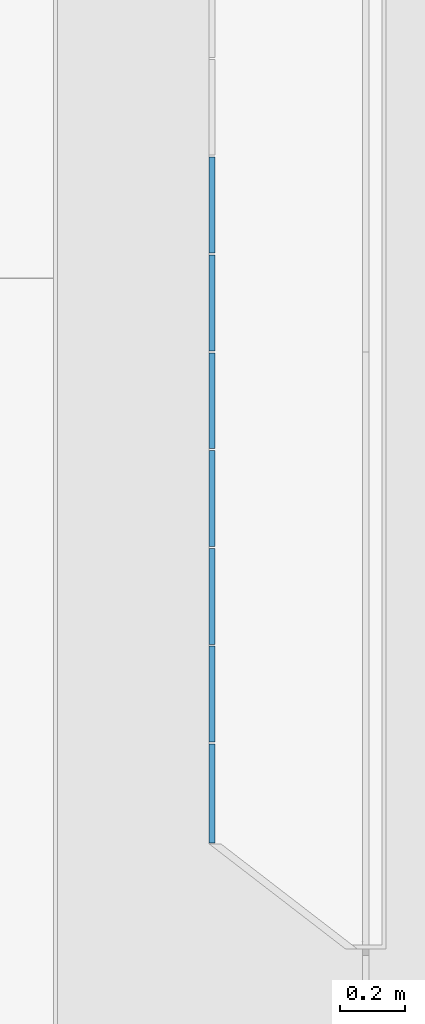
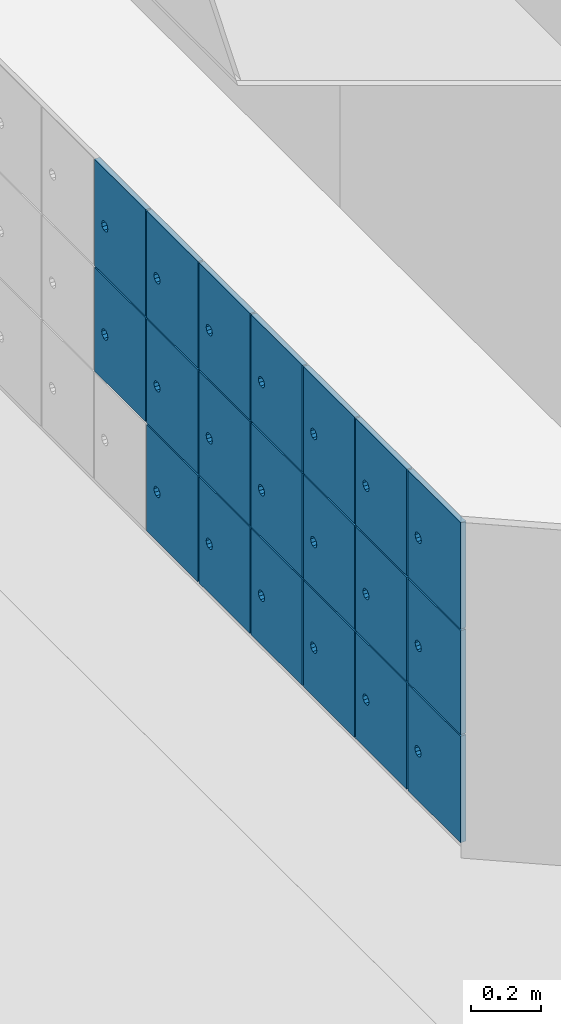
# One storey, part 141 of 347: 20 building element parts, 1 element without a shape of its own.
"""IFC2X3 building model written with IfcOpenShell, lengths in millimetres."""

from ifc_helpers import new_model, entity, si_unit, converted_unit, derived_unit, money_unit, direction, frame, origin_with_axes, place, context, subcontext, project, spatial, faceted_brep, material, type_object, element, aggregate, save


model = new_model("IFC2X3")

# Units and contexts
model_context = context("Model", 3, precision=0.01, world=origin_with_axes(), true_north=direction((0.0, 1.0)))
plan_context = context("Plan", 3, precision=0.01, world=origin_with_axes(), true_north=direction((0.0, 1.0)))
body_context = subcontext(model_context, "Body", "Model", "MODEL_VIEW")
ifc_project = project(units=[si_unit("LENGTHUNIT", "METRE", prefix="MILLI"), si_unit("AREAUNIT", "SQUARE_METRE"), si_unit("VOLUMEUNIT", "CUBIC_METRE"), converted_unit("PLANEANGLEUNIT", "DEGREE", entity("IfcPlaneAngleMeasure", 0.0174532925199), si_unit("PLANEANGLEUNIT", "RADIAN"), dimensions=[0, 0, 0, 0, 0, 0, 0]), money_unit("EUR"), converted_unit("TIMEUNIT", "Year", entity("IfcTimeMeasure", 31556926.0), si_unit("TIMEUNIT", "SECOND"), dimensions=[0, 0, 1, 0, 0, 0, 0]), si_unit("MASSUNIT", "GRAM", prefix="KILO"), si_unit("THERMODYNAMICTEMPERATUREUNIT", "DEGREE_CELSIUS"), si_unit("LUMINOUSINTENSITYUNIT", "LUMEN"), si_unit("ENERGYUNIT", "JOULE", prefix="MEGA"), derived_unit("THERMALCONDUCTANCEUNIT", [(si_unit("POWERUNIT", "WATT"), 1), (si_unit("LENGTHUNIT", "METRE"), -1), (si_unit("THERMODYNAMICTEMPERATUREUNIT", "KELVIN"), -1)]), derived_unit("SPECIFICHEATCAPACITYUNIT", [(si_unit("ENERGYUNIT", "JOULE"), 1), (si_unit("MASSUNIT", "GRAM", prefix="KILO"), -1), (si_unit("THERMODYNAMICTEMPERATUREUNIT", "KELVIN"), -1)]), derived_unit("MASSDENSITYUNIT", [(si_unit("MASSUNIT", "GRAM", prefix="KILO"), 1), (si_unit("VOLUMEUNIT", "CUBIC_METRE"), -1)])], contexts=[model_context, plan_context])

# Site, building, storey
site_placement = place(None, origin_with_axes())
site = spatial("IfcSite", under=ifc_project, at=site_placement, Name="Site", CompositionType="ELEMENT")
building_placement = place(site_placement, origin_with_axes())
building = spatial("IfcBuilding", under=site, at=building_placement, Name="Naam gebouw", CompositionType="ELEMENT")
storey_placement = place(building_placement, origin_with_axes())
storey = spatial("IfcBuildingStorey", under=building, at=storey_placement, Name="begane grond", CompositionType="ELEMENT", Elevation=0.0)

# Beam, building element parts
beam_type = type_object("IfcBeamType", Name="VI Garderobe 01 3012 x 1122", PredefinedType="BEAM")
beam_placement = place(storey_placement, frame((47531.9720234, 32105.5, 0.0), z_axis=(0.0, 0.0, 1.0), x_axis=(0.0, -1.0, 0.0)))
beam = element("IfcBeam", 1, at=beam_placement, inside=storey, type_object=beam_type, Name="28_Balk-x", ObjectType="BEAM")
ifc_material = material(Name="Hout - Lockers")
building_element_part_1_placement = place(beam_placement, origin_with_axes())
building_element_part_1 = element("IfcBuildingElementPart", 2, at=building_element_part_1_placement, material=ifc_material, Name="Hout - Lockers", context=body_context, shape_type="Brep", body=[
    faceted_brep([(2709.0, 18.0, 1175.0), (2709.0, 18.0, 802.0), (2709.0, 0.0, 802.0), (2709.0, 0.0, 1175.0), (3012.0, 18.0, 1175.0), (3012.0, 18.0, 802.0), (2787.0, 18.0, 975.0), (2783.5623059, 18.0, 985.580134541), (2774.5623059, 18.0, 992.119017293), (2763.4376941, 18.0, 992.119017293), (2754.4376941, 18.0, 985.580134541), (2751.0, 18.0, 975.0), (2754.4376941, 18.0, 964.419865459), (2763.4376941, 18.0, 957.880982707), (2774.5623059, 18.0, 957.880982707), (2783.5623059, 18.0, 964.419865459), (3012.0, 0.0, 802.0), (3012.0, 0.0, 1175.0), (2787.0, 0.0, 975.0), (2783.5623059, 0.0, 964.419865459), (2774.5623059, 0.0, 957.880982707), (2763.4376941, 0.0, 957.880982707), (2754.4376941, 0.0, 964.419865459), (2751.0, 0.0, 975.0), (2754.4376941, 0.0, 985.580134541), (2763.4376941, 0.0, 992.119017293), (2774.5623059, 0.0, 992.119017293), (2783.5623059, 0.0, 985.580134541)], [[[0, 1, 2, 3]], [[0, 4, 5, 1], [6, 7, 8, 9, 10, 11, 12, 13, 14, 15]], [[1, 5, 16, 2]], [[3, 2, 16, 17], [18, 19, 20, 21, 22, 23, 24, 25, 26, 27]], [[4, 0, 3, 17]], [[5, 4, 17, 16]], [[7, 6, 18, 27]], [[8, 7, 27, 26]], [[9, 8, 26, 25]], [[10, 9, 25, 24]], [[11, 10, 24, 23]], [[12, 11, 23, 22]], [[13, 12, 22, 21]], [[14, 13, 21, 20]], [[15, 14, 20, 19]], [[6, 15, 19, 18]]]),
])
building_element_part_2_placement = place(beam_placement, origin_with_axes())
building_element_part_2 = element("IfcBuildingElementPart", 3, at=building_element_part_2_placement, material=ifc_material, Name="Hout - Lockers", context=body_context, shape_type="Brep", body=[
    faceted_brep([(2709.0, 18.0, 796.0), (2709.0, 18.0, 432.0), (2709.0, 0.0, 432.0), (2709.0, 0.0, 796.0), (3012.0, 18.0, 796.0), (3012.0, 18.0, 432.0), (2787.0, 18.0, 596.0), (2783.5623059, 18.0, 606.580134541), (2774.5623059, 18.0, 613.119017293), (2763.4376941, 18.0, 613.119017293), (2754.4376941, 18.0, 606.580134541), (2751.0, 18.0, 596.0), (2754.4376941, 18.0, 585.419865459), (2763.4376941, 18.0, 578.880982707), (2774.5623059, 18.0, 578.880982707), (2783.5623059, 18.0, 585.419865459), (3012.0, 0.0, 432.0), (3012.0, 0.0, 796.0), (2787.0, 0.0, 596.0), (2783.5623059, 0.0, 585.419865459), (2774.5623059, 0.0, 578.880982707), (2763.4376941, 0.0, 578.880982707), (2754.4376941, 0.0, 585.419865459), (2751.0, 0.0, 596.0), (2754.4376941, 0.0, 606.580134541), (2763.4376941, 0.0, 613.119017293), (2774.5623059, 0.0, 613.119017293), (2783.5623059, 0.0, 606.580134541)], [[[0, 1, 2, 3]], [[0, 4, 5, 1], [6, 7, 8, 9, 10, 11, 12, 13, 14, 15]], [[1, 5, 16, 2]], [[3, 2, 16, 17], [18, 19, 20, 21, 22, 23, 24, 25, 26, 27]], [[4, 0, 3, 17]], [[5, 4, 17, 16]], [[7, 6, 18, 27]], [[8, 7, 27, 26]], [[9, 8, 26, 25]], [[10, 9, 25, 24]], [[11, 10, 24, 23]], [[12, 11, 23, 22]], [[13, 12, 22, 21]], [[14, 13, 21, 20]], [[15, 14, 20, 19]], [[6, 15, 19, 18]]]),
])
building_element_part_3_placement = place(beam_placement, origin_with_axes())
building_element_part_3 = element("IfcBuildingElementPart", 4, at=building_element_part_3_placement, material=ifc_material, Name="Hout - Lockers", context=body_context, shape_type="Brep", body=[
    faceted_brep([(2709.0, 18.0, 426.0), (2709.0, 18.0, 53.0), (2709.0, 0.0, 53.0), (2709.0, 0.0, 426.0), (3012.0, 18.0, 426.0), (3012.0, 18.0, 53.0), (2785.5992825, 18.0, 226.009810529), (2782.1615884, 18.0, 236.58994507), (2773.1615884, 18.0, 243.128827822), (2762.0369766, 18.0, 243.128827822), (2753.0369766, 18.0, 236.58994507), (2749.5992825, 18.0, 226.009810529), (2753.0369766, 18.0, 215.429675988), (2762.0369766, 18.0, 208.890793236), (2773.1615884, 18.0, 208.890793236), (2782.1615884, 18.0, 215.429675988), (3012.0, 0.0, 53.0), (3012.0, 0.0, 426.0), (2785.5992825, 0.0, 226.009810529), (2782.1615884, 0.0, 215.429675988), (2773.1615884, 0.0, 208.890793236), (2762.0369766, 0.0, 208.890793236), (2753.0369766, 0.0, 215.429675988), (2749.5992825, 0.0, 226.009810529), (2753.0369766, 0.0, 236.58994507), (2762.0369766, 0.0, 243.128827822), (2773.1615884, 0.0, 243.128827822), (2782.1615884, 0.0, 236.58994507)], [[[0, 1, 2, 3]], [[0, 4, 5, 1], [6, 7, 8, 9, 10, 11, 12, 13, 14, 15]], [[1, 5, 16, 2]], [[3, 2, 16, 17], [18, 19, 20, 21, 22, 23, 24, 25, 26, 27]], [[4, 0, 3, 17]], [[5, 4, 17, 16]], [[7, 6, 18, 27]], [[8, 7, 27, 26]], [[9, 8, 26, 25]], [[10, 9, 25, 24]], [[11, 10, 24, 23]], [[12, 11, 23, 22]], [[13, 12, 22, 21]], [[14, 13, 21, 20]], [[15, 14, 20, 19]], [[6, 15, 19, 18]]]),
])
building_element_part_4_placement = place(beam_placement, origin_with_axes())
building_element_part_4 = element("IfcBuildingElementPart", 5, at=building_element_part_4_placement, material=ifc_material, Name="Hout - Lockers", context=body_context, shape_type="Brep", body=[
    faceted_brep([(2109.0, 18.0, 1175.0), (2109.0, 18.0, 802.0), (2109.0, 0.0, 802.0), (2109.0, 0.0, 1175.0), (2403.0, 18.0, 1175.0), (2403.0, 18.0, 802.0), (2187.0, 18.0, 975.0), (2183.5623059, 18.0, 985.580134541), (2174.5623059, 18.0, 992.119017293), (2163.4376941, 18.0, 992.119017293), (2154.4376941, 18.0, 985.580134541), (2151.0, 18.0, 975.0), (2154.4376941, 18.0, 964.419865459), (2163.4376941, 18.0, 957.880982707), (2174.5623059, 18.0, 957.880982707), (2183.5623059, 18.0, 964.419865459), (2403.0, 0.0, 802.0), (2403.0, 0.0, 1175.0), (2187.0, 0.0, 975.0), (2183.5623059, 0.0, 964.419865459), (2174.5623059, 0.0, 957.880982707), (2163.4376941, 0.0, 957.880982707), (2154.4376941, 0.0, 964.419865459), (2151.0, 0.0, 975.0), (2154.4376941, 0.0, 985.580134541), (2163.4376941, 0.0, 992.119017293), (2174.5623059, 0.0, 992.119017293), (2183.5623059, 0.0, 985.580134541)], [[[0, 1, 2, 3]], [[0, 4, 5, 1], [6, 7, 8, 9, 10, 11, 12, 13, 14, 15]], [[1, 5, 16, 2]], [[3, 2, 16, 17], [18, 19, 20, 21, 22, 23, 24, 25, 26, 27]], [[4, 0, 3, 17]], [[5, 4, 17, 16]], [[7, 6, 18, 27]], [[8, 7, 27, 26]], [[9, 8, 26, 25]], [[10, 9, 25, 24]], [[11, 10, 24, 23]], [[12, 11, 23, 22]], [[13, 12, 22, 21]], [[14, 13, 21, 20]], [[15, 14, 20, 19]], [[6, 15, 19, 18]]]),
])
building_element_part_5_placement = place(beam_placement, origin_with_axes())
building_element_part_5 = element("IfcBuildingElementPart", 6, at=building_element_part_5_placement, material=ifc_material, Name="Hout - Lockers", context=body_context, shape_type="Brep", body=[
    faceted_brep([(2109.0, 18.0, 796.0), (2109.0, 18.0, 432.0), (2109.0, 0.0, 432.0), (2109.0, 0.0, 796.0), (2403.0, 18.0, 796.0), (2403.0, 18.0, 432.0), (2187.0, 18.0, 596.0), (2183.5623059, 18.0, 606.580134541), (2174.5623059, 18.0, 613.119017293), (2163.4376941, 18.0, 613.119017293), (2154.4376941, 18.0, 606.580134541), (2151.0, 18.0, 596.0), (2154.4376941, 18.0, 585.419865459), (2163.4376941, 18.0, 578.880982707), (2174.5623059, 18.0, 578.880982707), (2183.5623059, 18.0, 585.419865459), (2403.0, 0.0, 432.0), (2403.0, 0.0, 796.0), (2187.0, 0.0, 596.0), (2183.5623059, 0.0, 585.419865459), (2174.5623059, 0.0, 578.880982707), (2163.4376941, 0.0, 578.880982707), (2154.4376941, 0.0, 585.419865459), (2151.0, 0.0, 596.0), (2154.4376941, 0.0, 606.580134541), (2163.4376941, 0.0, 613.119017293), (2174.5623059, 0.0, 613.119017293), (2183.5623059, 0.0, 606.580134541)], [[[0, 1, 2, 3]], [[0, 4, 5, 1], [6, 7, 8, 9, 10, 11, 12, 13, 14, 15]], [[1, 5, 16, 2]], [[3, 2, 16, 17], [18, 19, 20, 21, 22, 23, 24, 25, 26, 27]], [[4, 0, 3, 17]], [[5, 4, 17, 16]], [[7, 6, 18, 27]], [[8, 7, 27, 26]], [[9, 8, 26, 25]], [[10, 9, 25, 24]], [[11, 10, 24, 23]], [[12, 11, 23, 22]], [[13, 12, 22, 21]], [[14, 13, 21, 20]], [[15, 14, 20, 19]], [[6, 15, 19, 18]]]),
])
building_element_part_6_placement = place(beam_placement, origin_with_axes())
building_element_part_6 = element("IfcBuildingElementPart", 7, at=building_element_part_6_placement, material=ifc_material, Name="Hout - Lockers", context=body_context, shape_type="Brep", body=[
    faceted_brep([(2109.0, 18.0, 426.0), (2109.0, 18.0, 53.0), (2109.0, 0.0, 53.0), (2109.0, 0.0, 426.0), (2403.0, 18.0, 426.0), (2403.0, 18.0, 53.0), (2187.0, 18.0, 226.0), (2183.5623059, 18.0, 236.580134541), (2174.5623059, 18.0, 243.119017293), (2163.4376941, 18.0, 243.119017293), (2154.4376941, 18.0, 236.580134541), (2151.0, 18.0, 226.0), (2154.4376941, 18.0, 215.419865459), (2163.4376941, 18.0, 208.880982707), (2174.5623059, 18.0, 208.880982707), (2183.5623059, 18.0, 215.419865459), (2403.0, 0.0, 53.0), (2403.0, 0.0, 426.0), (2187.0, 0.0, 226.0), (2183.5623059, 0.0, 215.419865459), (2174.5623059, 0.0, 208.880982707), (2163.4376941, 0.0, 208.880982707), (2154.4376941, 0.0, 215.419865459), (2151.0, 0.0, 226.0), (2154.4376941, 0.0, 236.580134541), (2163.4376941, 0.0, 243.119017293), (2174.5623059, 0.0, 243.119017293), (2183.5623059, 0.0, 236.580134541)], [[[0, 1, 2, 3]], [[0, 4, 5, 1], [6, 7, 8, 9, 10, 11, 12, 13, 14, 15]], [[1, 5, 16, 2]], [[3, 2, 16, 17], [18, 19, 20, 21, 22, 23, 24, 25, 26, 27]], [[4, 0, 3, 17]], [[5, 4, 17, 16]], [[7, 6, 18, 27]], [[8, 7, 27, 26]], [[9, 8, 26, 25]], [[10, 9, 25, 24]], [[11, 10, 24, 23]], [[12, 11, 23, 22]], [[13, 12, 22, 21]], [[14, 13, 21, 20]], [[15, 14, 20, 19]], [[6, 15, 19, 18]]]),
])
building_element_part_7_placement = place(beam_placement, origin_with_axes())
building_element_part_7 = element("IfcBuildingElementPart", 8, at=building_element_part_7_placement, material=ifc_material, Name="Hout - Lockers", context=body_context, shape_type="Brep", body=[
    faceted_brep([(1209.0, 18.0, 1175.0), (1209.0, 18.0, 802.0), (1209.0, 0.0, 802.0), (1209.0, 0.0, 1175.0), (1503.0, 18.0, 1175.0), (1503.0, 18.0, 802.0), (1287.0, 18.0, 975.0), (1283.5623059, 18.0, 985.580134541), (1274.5623059, 18.0, 992.119017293), (1263.4376941, 18.0, 992.119017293), (1254.4376941, 18.0, 985.580134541), (1251.0, 18.0, 975.0), (1254.4376941, 18.0, 964.419865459), (1263.4376941, 18.0, 957.880982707), (1274.5623059, 18.0, 957.880982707), (1283.5623059, 18.0, 964.419865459), (1503.0, 0.0, 802.0), (1503.0, 0.0, 1175.0), (1287.0, 0.0, 975.0), (1283.5623059, 0.0, 964.419865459), (1274.5623059, 0.0, 957.880982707), (1263.4376941, 0.0, 957.880982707), (1254.4376941, 0.0, 964.419865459), (1251.0, 0.0, 975.0), (1254.4376941, 0.0, 985.580134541), (1263.4376941, 0.0, 992.119017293), (1274.5623059, 0.0, 992.119017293), (1283.5623059, 0.0, 985.580134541)], [[[0, 1, 2, 3]], [[0, 4, 5, 1], [6, 7, 8, 9, 10, 11, 12, 13, 14, 15]], [[1, 5, 16, 2]], [[3, 2, 16, 17], [18, 19, 20, 21, 22, 23, 24, 25, 26, 27]], [[4, 0, 3, 17]], [[5, 4, 17, 16]], [[7, 6, 18, 27]], [[8, 7, 27, 26]], [[9, 8, 26, 25]], [[10, 9, 25, 24]], [[11, 10, 24, 23]], [[12, 11, 23, 22]], [[13, 12, 22, 21]], [[14, 13, 21, 20]], [[15, 14, 20, 19]], [[6, 15, 19, 18]]]),
])
building_element_part_8_placement = place(beam_placement, origin_with_axes())
building_element_part_8 = element("IfcBuildingElementPart", 9, at=building_element_part_8_placement, material=ifc_material, Name="Hout - Lockers", context=body_context, shape_type="Brep", body=[
    faceted_brep([(1209.0, 18.0, 796.0), (1209.0, 18.0, 432.0), (1209.0, 0.0, 432.0), (1209.0, 0.0, 796.0), (1503.0, 18.0, 796.0), (1503.0, 18.0, 432.0), (1287.0, 18.0, 596.0), (1283.5623059, 18.0, 606.580134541), (1274.5623059, 18.0, 613.119017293), (1263.4376941, 18.0, 613.119017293), (1254.4376941, 18.0, 606.580134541), (1251.0, 18.0, 596.0), (1254.4376941, 18.0, 585.419865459), (1263.4376941, 18.0, 578.880982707), (1274.5623059, 18.0, 578.880982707), (1283.5623059, 18.0, 585.419865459), (1503.0, 0.0, 432.0), (1503.0, 0.0, 796.0), (1287.0, 0.0, 596.0), (1283.5623059, 0.0, 585.419865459), (1274.5623059, 0.0, 578.880982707), (1263.4376941, 0.0, 578.880982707), (1254.4376941, 0.0, 585.419865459), (1251.0, 0.0, 596.0), (1254.4376941, 0.0, 606.580134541), (1263.4376941, 0.0, 613.119017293), (1274.5623059, 0.0, 613.119017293), (1283.5623059, 0.0, 606.580134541)], [[[0, 1, 2, 3]], [[0, 4, 5, 1], [6, 7, 8, 9, 10, 11, 12, 13, 14, 15]], [[1, 5, 16, 2]], [[3, 2, 16, 17], [18, 19, 20, 21, 22, 23, 24, 25, 26, 27]], [[4, 0, 3, 17]], [[5, 4, 17, 16]], [[7, 6, 18, 27]], [[8, 7, 27, 26]], [[9, 8, 26, 25]], [[10, 9, 25, 24]], [[11, 10, 24, 23]], [[12, 11, 23, 22]], [[13, 12, 22, 21]], [[14, 13, 21, 20]], [[15, 14, 20, 19]], [[6, 15, 19, 18]]]),
])
building_element_part_9_placement = place(beam_placement, origin_with_axes())
building_element_part_9 = element("IfcBuildingElementPart", 10, at=building_element_part_9_placement, material=ifc_material, Name="Hout - Lockers", context=body_context, shape_type="Brep", body=[
    faceted_brep([(1209.0, 18.0, 426.0), (1209.0, 18.0, 53.0), (1209.0, 0.0, 53.0), (1209.0, 0.0, 426.0), (1503.0, 18.0, 426.0), (1503.0, 18.0, 53.0), (1287.0, 18.0, 226.0), (1283.5623059, 18.0, 236.580134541), (1274.5623059, 18.0, 243.119017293), (1263.4376941, 18.0, 243.119017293), (1254.4376941, 18.0, 236.580134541), (1251.0, 18.0, 226.0), (1254.4376941, 18.0, 215.419865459), (1263.4376941, 18.0, 208.880982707), (1274.5623059, 18.0, 208.880982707), (1283.5623059, 18.0, 215.419865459), (1503.0, 0.0, 53.0), (1503.0, 0.0, 426.0), (1287.0, 0.0, 226.0), (1283.5623059, 0.0, 215.419865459), (1274.5623059, 0.0, 208.880982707), (1263.4376941, 0.0, 208.880982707), (1254.4376941, 0.0, 215.419865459), (1251.0, 0.0, 226.0), (1254.4376941, 0.0, 236.580134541), (1263.4376941, 0.0, 243.119017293), (1274.5623059, 0.0, 243.119017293), (1283.5623059, 0.0, 236.580134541)], [[[0, 1, 2, 3]], [[0, 4, 5, 1], [6, 7, 8, 9, 10, 11, 12, 13, 14, 15]], [[1, 5, 16, 2]], [[3, 2, 16, 17], [18, 19, 20, 21, 22, 23, 24, 25, 26, 27]], [[4, 0, 3, 17]], [[5, 4, 17, 16]], [[7, 6, 18, 27]], [[8, 7, 27, 26]], [[9, 8, 26, 25]], [[10, 9, 25, 24]], [[11, 10, 24, 23]], [[12, 11, 23, 22]], [[13, 12, 22, 21]], [[14, 13, 21, 20]], [[15, 14, 20, 19]], [[6, 15, 19, 18]]]),
])
building_element_part_10_placement = place(beam_placement, origin_with_axes())
building_element_part_10 = element("IfcBuildingElementPart", 11, at=building_element_part_10_placement, material=ifc_material, Name="Hout - Lockers", context=body_context, shape_type="Brep", body=[
    faceted_brep([(909.0, 18.0, 1175.0), (909.0, 18.0, 802.0), (909.0, 0.0, 802.0), (909.0, 0.0, 1175.0), (1203.0, 18.0, 1175.0), (1203.0, 18.0, 802.0), (987.0, 18.0, 975.0), (983.562305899, 18.0, 985.580134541), (974.562305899, 18.0, 992.119017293), (963.437694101, 18.0, 992.119017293), (954.437694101, 18.0, 985.580134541), (951.0, 18.0, 975.0), (954.437694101, 18.0, 964.419865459), (963.437694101, 18.0, 957.880982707), (974.562305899, 18.0, 957.880982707), (983.562305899, 18.0, 964.419865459), (1203.0, 0.0, 802.0), (1203.0, 0.0, 1175.0), (987.0, 0.0, 975.0), (983.562305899, 0.0, 964.419865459), (974.562305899, 0.0, 957.880982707), (963.437694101, 0.0, 957.880982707), (954.437694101, 0.0, 964.419865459), (951.0, 0.0, 975.0), (954.437694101, 0.0, 985.580134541), (963.437694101, 0.0, 992.119017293), (974.562305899, 0.0, 992.119017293), (983.562305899, 0.0, 985.580134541)], [[[0, 1, 2, 3]], [[0, 4, 5, 1], [6, 7, 8, 9, 10, 11, 12, 13, 14, 15]], [[1, 5, 16, 2]], [[3, 2, 16, 17], [18, 19, 20, 21, 22, 23, 24, 25, 26, 27]], [[4, 0, 3, 17]], [[5, 4, 17, 16]], [[7, 6, 18, 27]], [[8, 7, 27, 26]], [[9, 8, 26, 25]], [[10, 9, 25, 24]], [[11, 10, 24, 23]], [[12, 11, 23, 22]], [[13, 12, 22, 21]], [[14, 13, 21, 20]], [[15, 14, 20, 19]], [[6, 15, 19, 18]]]),
])
building_element_part_11_placement = place(beam_placement, origin_with_axes())
building_element_part_11 = element("IfcBuildingElementPart", 12, at=building_element_part_11_placement, material=ifc_material, Name="Hout - Lockers", context=body_context, shape_type="Brep", body=[
    faceted_brep([(909.0, 18.0, 796.0), (909.0, 18.0, 432.0), (909.0, 0.0, 432.0), (909.0, 0.0, 796.0), (1203.0, 18.0, 796.0), (1203.0, 18.0, 432.0), (987.0, 18.0, 596.0), (983.562305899, 18.0, 606.580134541), (974.562305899, 18.0, 613.119017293), (963.437694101, 18.0, 613.119017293), (954.437694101, 18.0, 606.580134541), (951.0, 18.0, 596.0), (954.437694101, 18.0, 585.419865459), (963.437694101, 18.0, 578.880982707), (974.562305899, 18.0, 578.880982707), (983.562305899, 18.0, 585.419865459), (1203.0, 0.0, 432.0), (1203.0, 0.0, 796.0), (987.0, 0.0, 596.0), (983.562305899, 0.0, 585.419865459), (974.562305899, 0.0, 578.880982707), (963.437694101, 0.0, 578.880982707), (954.437694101, 0.0, 585.419865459), (951.0, 0.0, 596.0), (954.437694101, 0.0, 606.580134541), (963.437694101, 0.0, 613.119017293), (974.562305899, 0.0, 613.119017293), (983.562305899, 0.0, 606.580134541)], [[[0, 1, 2, 3]], [[0, 4, 5, 1], [6, 7, 8, 9, 10, 11, 12, 13, 14, 15]], [[1, 5, 16, 2]], [[3, 2, 16, 17], [18, 19, 20, 21, 22, 23, 24, 25, 26, 27]], [[4, 0, 3, 17]], [[5, 4, 17, 16]], [[7, 6, 18, 27]], [[8, 7, 27, 26]], [[9, 8, 26, 25]], [[10, 9, 25, 24]], [[11, 10, 24, 23]], [[12, 11, 23, 22]], [[13, 12, 22, 21]], [[14, 13, 21, 20]], [[15, 14, 20, 19]], [[6, 15, 19, 18]]]),
])
building_element_part_12_placement = place(beam_placement, origin_with_axes())
building_element_part_12 = element("IfcBuildingElementPart", 13, at=building_element_part_12_placement, material=ifc_material, Name="Hout - Lockers", context=body_context, shape_type="Brep", body=[
    faceted_brep([(1809.0, 18.0, 1175.0), (1809.0, 18.0, 802.0), (1809.0, 0.0, 802.0), (1809.0, 0.0, 1175.0), (2103.0, 18.0, 1175.0), (2103.0, 18.0, 802.0), (1887.0, 18.0, 975.0), (1883.5623059, 18.0, 985.580134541), (1874.5623059, 18.0, 992.119017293), (1863.4376941, 18.0, 992.119017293), (1854.4376941, 18.0, 985.580134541), (1851.0, 18.0, 975.0), (1854.4376941, 18.0, 964.419865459), (1863.4376941, 18.0, 957.880982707), (1874.5623059, 18.0, 957.880982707), (1883.5623059, 18.0, 964.419865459), (2103.0, 0.0, 802.0), (2103.0, 0.0, 1175.0), (1887.0, 0.0, 975.0), (1883.5623059, 0.0, 964.419865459), (1874.5623059, 0.0, 957.880982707), (1863.4376941, 0.0, 957.880982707), (1854.4376941, 0.0, 964.419865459), (1851.0, 0.0, 975.0), (1854.4376941, 0.0, 985.580134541), (1863.4376941, 0.0, 992.119017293), (1874.5623059, 0.0, 992.119017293), (1883.5623059, 0.0, 985.580134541)], [[[0, 1, 2, 3]], [[0, 4, 5, 1], [6, 7, 8, 9, 10, 11, 12, 13, 14, 15]], [[1, 5, 16, 2]], [[3, 2, 16, 17], [18, 19, 20, 21, 22, 23, 24, 25, 26, 27]], [[4, 0, 3, 17]], [[5, 4, 17, 16]], [[7, 6, 18, 27]], [[8, 7, 27, 26]], [[9, 8, 26, 25]], [[10, 9, 25, 24]], [[11, 10, 24, 23]], [[12, 11, 23, 22]], [[13, 12, 22, 21]], [[14, 13, 21, 20]], [[15, 14, 20, 19]], [[6, 15, 19, 18]]]),
])
building_element_part_13_placement = place(beam_placement, origin_with_axes())
building_element_part_13 = element("IfcBuildingElementPart", 14, at=building_element_part_13_placement, material=ifc_material, Name="Hout - Lockers", context=body_context, shape_type="Brep", body=[
    faceted_brep([(1809.0, 18.0, 796.0), (1809.0, 18.0, 432.0), (1809.0, 0.0, 432.0), (1809.0, 0.0, 796.0), (2103.0, 18.0, 796.0), (2103.0, 18.0, 432.0), (1887.0, 18.0, 596.0), (1883.5623059, 18.0, 606.580134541), (1874.5623059, 18.0, 613.119017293), (1863.4376941, 18.0, 613.119017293), (1854.4376941, 18.0, 606.580134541), (1851.0, 18.0, 596.0), (1854.4376941, 18.0, 585.419865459), (1863.4376941, 18.0, 578.880982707), (1874.5623059, 18.0, 578.880982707), (1883.5623059, 18.0, 585.419865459), (2103.0, 0.0, 432.0), (2103.0, 0.0, 796.0), (1887.0, 0.0, 596.0), (1883.5623059, 0.0, 585.419865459), (1874.5623059, 0.0, 578.880982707), (1863.4376941, 0.0, 578.880982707), (1854.4376941, 0.0, 585.419865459), (1851.0, 0.0, 596.0), (1854.4376941, 0.0, 606.580134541), (1863.4376941, 0.0, 613.119017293), (1874.5623059, 0.0, 613.119017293), (1883.5623059, 0.0, 606.580134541)], [[[0, 1, 2, 3]], [[0, 4, 5, 1], [6, 7, 8, 9, 10, 11, 12, 13, 14, 15]], [[1, 5, 16, 2]], [[3, 2, 16, 17], [18, 19, 20, 21, 22, 23, 24, 25, 26, 27]], [[4, 0, 3, 17]], [[5, 4, 17, 16]], [[7, 6, 18, 27]], [[8, 7, 27, 26]], [[9, 8, 26, 25]], [[10, 9, 25, 24]], [[11, 10, 24, 23]], [[12, 11, 23, 22]], [[13, 12, 22, 21]], [[14, 13, 21, 20]], [[15, 14, 20, 19]], [[6, 15, 19, 18]]]),
])
building_element_part_14_placement = place(beam_placement, origin_with_axes())
building_element_part_14 = element("IfcBuildingElementPart", 15, at=building_element_part_14_placement, material=ifc_material, Name="Hout - Lockers", context=body_context, shape_type="Brep", body=[
    faceted_brep([(1809.0, 18.0, 426.0), (1809.0, 18.0, 53.0), (1809.0, 0.0, 53.0), (1809.0, 0.0, 426.0), (2103.0, 18.0, 426.0), (2103.0, 18.0, 53.0), (1887.0, 18.0, 226.0), (1883.5623059, 18.0, 236.580134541), (1874.5623059, 18.0, 243.119017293), (1863.4376941, 18.0, 243.119017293), (1854.4376941, 18.0, 236.580134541), (1851.0, 18.0, 226.0), (1854.4376941, 18.0, 215.419865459), (1863.4376941, 18.0, 208.880982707), (1874.5623059, 18.0, 208.880982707), (1883.5623059, 18.0, 215.419865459), (2103.0, 0.0, 53.0), (2103.0, 0.0, 426.0), (1887.0, 0.0, 226.0), (1883.5623059, 0.0, 215.419865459), (1874.5623059, 0.0, 208.880982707), (1863.4376941, 0.0, 208.880982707), (1854.4376941, 0.0, 215.419865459), (1851.0, 0.0, 226.0), (1854.4376941, 0.0, 236.580134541), (1863.4376941, 0.0, 243.119017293), (1874.5623059, 0.0, 243.119017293), (1883.5623059, 0.0, 236.580134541)], [[[0, 1, 2, 3]], [[0, 4, 5, 1], [6, 7, 8, 9, 10, 11, 12, 13, 14, 15]], [[1, 5, 16, 2]], [[3, 2, 16, 17], [18, 19, 20, 21, 22, 23, 24, 25, 26, 27]], [[4, 0, 3, 17]], [[5, 4, 17, 16]], [[7, 6, 18, 27]], [[8, 7, 27, 26]], [[9, 8, 26, 25]], [[10, 9, 25, 24]], [[11, 10, 24, 23]], [[12, 11, 23, 22]], [[13, 12, 22, 21]], [[14, 13, 21, 20]], [[15, 14, 20, 19]], [[6, 15, 19, 18]]]),
])
building_element_part_15_placement = place(beam_placement, origin_with_axes())
building_element_part_15 = element("IfcBuildingElementPart", 16, at=building_element_part_15_placement, material=ifc_material, Name="Hout - Lockers", context=body_context, shape_type="Brep", body=[
    faceted_brep([(1509.0, 18.0, 1175.0), (1509.0, 18.0, 802.0), (1509.0, 0.0, 802.0), (1509.0, 0.0, 1175.0), (1803.0, 18.0, 1175.0), (1803.0, 18.0, 802.0), (1587.0, 18.0, 975.0), (1583.5623059, 18.0, 985.580134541), (1574.5623059, 18.0, 992.119017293), (1563.4376941, 18.0, 992.119017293), (1554.4376941, 18.0, 985.580134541), (1551.0, 18.0, 975.0), (1554.4376941, 18.0, 964.419865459), (1563.4376941, 18.0, 957.880982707), (1574.5623059, 18.0, 957.880982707), (1583.5623059, 18.0, 964.419865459), (1803.0, 0.0, 802.0), (1803.0, 0.0, 1175.0), (1587.0, 0.0, 975.0), (1583.5623059, 0.0, 964.419865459), (1574.5623059, 0.0, 957.880982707), (1563.4376941, 0.0, 957.880982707), (1554.4376941, 0.0, 964.419865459), (1551.0, 0.0, 975.0), (1554.4376941, 0.0, 985.580134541), (1563.4376941, 0.0, 992.119017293), (1574.5623059, 0.0, 992.119017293), (1583.5623059, 0.0, 985.580134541)], [[[0, 1, 2, 3]], [[0, 4, 5, 1], [6, 7, 8, 9, 10, 11, 12, 13, 14, 15]], [[1, 5, 16, 2]], [[3, 2, 16, 17], [18, 19, 20, 21, 22, 23, 24, 25, 26, 27]], [[4, 0, 3, 17]], [[5, 4, 17, 16]], [[7, 6, 18, 27]], [[8, 7, 27, 26]], [[9, 8, 26, 25]], [[10, 9, 25, 24]], [[11, 10, 24, 23]], [[12, 11, 23, 22]], [[13, 12, 22, 21]], [[14, 13, 21, 20]], [[15, 14, 20, 19]], [[6, 15, 19, 18]]]),
])
building_element_part_16_placement = place(beam_placement, origin_with_axes())
building_element_part_16 = element("IfcBuildingElementPart", 17, at=building_element_part_16_placement, material=ifc_material, Name="Hout - Lockers", context=body_context, shape_type="Brep", body=[
    faceted_brep([(1509.0, 18.0, 796.0), (1509.0, 18.0, 432.0), (1509.0, 0.0, 432.0), (1509.0, 0.0, 796.0), (1803.0, 18.0, 796.0), (1803.0, 18.0, 432.0), (1587.0, 18.0, 596.0), (1583.5623059, 18.0, 606.580134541), (1574.5623059, 18.0, 613.119017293), (1563.4376941, 18.0, 613.119017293), (1554.4376941, 18.0, 606.580134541), (1551.0, 18.0, 596.0), (1554.4376941, 18.0, 585.419865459), (1563.4376941, 18.0, 578.880982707), (1574.5623059, 18.0, 578.880982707), (1583.5623059, 18.0, 585.419865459), (1803.0, 0.0, 432.0), (1803.0, 0.0, 796.0), (1587.0, 0.0, 596.0), (1583.5623059, 0.0, 585.419865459), (1574.5623059, 0.0, 578.880982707), (1563.4376941, 0.0, 578.880982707), (1554.4376941, 0.0, 585.419865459), (1551.0, 0.0, 596.0), (1554.4376941, 0.0, 606.580134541), (1563.4376941, 0.0, 613.119017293), (1574.5623059, 0.0, 613.119017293), (1583.5623059, 0.0, 606.580134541)], [[[0, 1, 2, 3]], [[0, 4, 5, 1], [6, 7, 8, 9, 10, 11, 12, 13, 14, 15]], [[1, 5, 16, 2]], [[3, 2, 16, 17], [18, 19, 20, 21, 22, 23, 24, 25, 26, 27]], [[4, 0, 3, 17]], [[5, 4, 17, 16]], [[7, 6, 18, 27]], [[8, 7, 27, 26]], [[9, 8, 26, 25]], [[10, 9, 25, 24]], [[11, 10, 24, 23]], [[12, 11, 23, 22]], [[13, 12, 22, 21]], [[14, 13, 21, 20]], [[15, 14, 20, 19]], [[6, 15, 19, 18]]]),
])
building_element_part_17_placement = place(beam_placement, origin_with_axes())
building_element_part_17 = element("IfcBuildingElementPart", 18, at=building_element_part_17_placement, material=ifc_material, Name="Hout - Lockers", context=body_context, shape_type="Brep", body=[
    faceted_brep([(1509.0, 18.0, 426.0), (1509.0, 18.0, 53.0), (1509.0, 0.0, 53.0), (1509.0, 0.0, 426.0), (1803.0, 18.0, 426.0), (1803.0, 18.0, 53.0), (1587.0, 18.0, 226.0), (1583.5623059, 18.0, 236.580134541), (1574.5623059, 18.0, 243.119017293), (1563.4376941, 18.0, 243.119017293), (1554.4376941, 18.0, 236.580134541), (1551.0, 18.0, 226.0), (1554.4376941, 18.0, 215.419865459), (1563.4376941, 18.0, 208.880982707), (1574.5623059, 18.0, 208.880982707), (1583.5623059, 18.0, 215.419865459), (1803.0, 0.0, 53.0), (1803.0, 0.0, 426.0), (1587.0, 0.0, 226.0), (1583.5623059, 0.0, 215.419865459), (1574.5623059, 0.0, 208.880982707), (1563.4376941, 0.0, 208.880982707), (1554.4376941, 0.0, 215.419865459), (1551.0, 0.0, 226.0), (1554.4376941, 0.0, 236.580134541), (1563.4376941, 0.0, 243.119017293), (1574.5623059, 0.0, 243.119017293), (1583.5623059, 0.0, 236.580134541)], [[[0, 1, 2, 3]], [[0, 4, 5, 1], [6, 7, 8, 9, 10, 11, 12, 13, 14, 15]], [[1, 5, 16, 2]], [[3, 2, 16, 17], [18, 19, 20, 21, 22, 23, 24, 25, 26, 27]], [[4, 0, 3, 17]], [[5, 4, 17, 16]], [[7, 6, 18, 27]], [[8, 7, 27, 26]], [[9, 8, 26, 25]], [[10, 9, 25, 24]], [[11, 10, 24, 23]], [[12, 11, 23, 22]], [[13, 12, 22, 21]], [[14, 13, 21, 20]], [[15, 14, 20, 19]], [[6, 15, 19, 18]]]),
])
building_element_part_18_placement = place(beam_placement, origin_with_axes())
building_element_part_18 = element("IfcBuildingElementPart", 19, at=building_element_part_18_placement, material=ifc_material, Name="Hout - Lockers", context=body_context, shape_type="Brep", body=[
    faceted_brep([(2409.0, 18.0, 1175.0), (2409.0, 18.0, 802.0), (2409.0, 0.0, 802.0), (2409.0, 0.0, 1175.0), (2703.0, 18.0, 1175.0), (2703.0, 18.0, 802.0), (2487.0, 18.0, 975.0), (2483.5623059, 18.0, 985.580134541), (2474.5623059, 18.0, 992.119017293), (2463.4376941, 18.0, 992.119017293), (2454.4376941, 18.0, 985.580134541), (2451.0, 18.0, 975.0), (2454.4376941, 18.0, 964.419865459), (2463.4376941, 18.0, 957.880982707), (2474.5623059, 18.0, 957.880982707), (2483.5623059, 18.0, 964.419865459), (2703.0, 0.0, 802.0), (2703.0, 0.0, 1175.0), (2487.0, 0.0, 975.0), (2483.5623059, 0.0, 964.419865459), (2474.5623059, 0.0, 957.880982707), (2463.4376941, 0.0, 957.880982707), (2454.4376941, 0.0, 964.419865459), (2451.0, 0.0, 975.0), (2454.4376941, 0.0, 985.580134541), (2463.4376941, 0.0, 992.119017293), (2474.5623059, 0.0, 992.119017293), (2483.5623059, 0.0, 985.580134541)], [[[0, 1, 2, 3]], [[0, 4, 5, 1], [6, 7, 8, 9, 10, 11, 12, 13, 14, 15]], [[1, 5, 16, 2]], [[3, 2, 16, 17], [18, 19, 20, 21, 22, 23, 24, 25, 26, 27]], [[4, 0, 3, 17]], [[5, 4, 17, 16]], [[7, 6, 18, 27]], [[8, 7, 27, 26]], [[9, 8, 26, 25]], [[10, 9, 25, 24]], [[11, 10, 24, 23]], [[12, 11, 23, 22]], [[13, 12, 22, 21]], [[14, 13, 21, 20]], [[15, 14, 20, 19]], [[6, 15, 19, 18]]]),
])
building_element_part_19_placement = place(beam_placement, origin_with_axes())
building_element_part_19 = element("IfcBuildingElementPart", 20, at=building_element_part_19_placement, material=ifc_material, Name="Hout - Lockers", context=body_context, shape_type="Brep", body=[
    faceted_brep([(2409.0, 18.0, 796.0), (2409.0, 18.0, 432.0), (2409.0, 0.0, 432.0), (2409.0, 0.0, 796.0), (2703.0, 18.0, 796.0), (2703.0, 18.0, 432.0), (2487.0, 18.0, 596.0), (2483.5623059, 18.0, 606.580134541), (2474.5623059, 18.0, 613.119017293), (2463.4376941, 18.0, 613.119017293), (2454.4376941, 18.0, 606.580134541), (2451.0, 18.0, 596.0), (2454.4376941, 18.0, 585.419865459), (2463.4376941, 18.0, 578.880982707), (2474.5623059, 18.0, 578.880982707), (2483.5623059, 18.0, 585.419865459), (2703.0, 0.0, 432.0), (2703.0, 0.0, 796.0), (2487.0, 0.0, 596.0), (2483.5623059, 0.0, 585.419865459), (2474.5623059, 0.0, 578.880982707), (2463.4376941, 0.0, 578.880982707), (2454.4376941, 0.0, 585.419865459), (2451.0, 0.0, 596.0), (2454.4376941, 0.0, 606.580134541), (2463.4376941, 0.0, 613.119017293), (2474.5623059, 0.0, 613.119017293), (2483.5623059, 0.0, 606.580134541)], [[[0, 1, 2, 3]], [[0, 4, 5, 1], [6, 7, 8, 9, 10, 11, 12, 13, 14, 15]], [[1, 5, 16, 2]], [[3, 2, 16, 17], [18, 19, 20, 21, 22, 23, 24, 25, 26, 27]], [[4, 0, 3, 17]], [[5, 4, 17, 16]], [[7, 6, 18, 27]], [[8, 7, 27, 26]], [[9, 8, 26, 25]], [[10, 9, 25, 24]], [[11, 10, 24, 23]], [[12, 11, 23, 22]], [[13, 12, 22, 21]], [[14, 13, 21, 20]], [[15, 14, 20, 19]], [[6, 15, 19, 18]]]),
])
building_element_part_20_placement = place(beam_placement, origin_with_axes())
building_element_part_20 = element("IfcBuildingElementPart", 21, at=building_element_part_20_placement, material=ifc_material, Name="Hout - Lockers", context=body_context, shape_type="Brep", body=[
    faceted_brep([(2409.0, 18.0, 426.0), (2409.0, 18.0, 53.0), (2409.0, 0.0, 53.0), (2409.0, 0.0, 426.0), (2703.0, 18.0, 426.0), (2703.0, 18.0, 53.0), (2487.0, 18.0, 226.0), (2483.5623059, 18.0, 236.580134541), (2474.5623059, 18.0, 243.119017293), (2463.4376941, 18.0, 243.119017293), (2454.4376941, 18.0, 236.580134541), (2451.0, 18.0, 226.0), (2454.4376941, 18.0, 215.419865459), (2463.4376941, 18.0, 208.880982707), (2474.5623059, 18.0, 208.880982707), (2483.5623059, 18.0, 215.419865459), (2703.0, 0.0, 53.0), (2703.0, 0.0, 426.0), (2487.0, 0.0, 226.0), (2483.5623059, 0.0, 215.419865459), (2474.5623059, 0.0, 208.880982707), (2463.4376941, 0.0, 208.880982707), (2454.4376941, 0.0, 215.419865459), (2451.0, 0.0, 226.0), (2454.4376941, 0.0, 236.580134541), (2463.4376941, 0.0, 243.119017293), (2474.5623059, 0.0, 243.119017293), (2483.5623059, 0.0, 236.580134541)], [[[0, 1, 2, 3]], [[0, 4, 5, 1], [6, 7, 8, 9, 10, 11, 12, 13, 14, 15]], [[1, 5, 16, 2]], [[3, 2, 16, 17], [18, 19, 20, 21, 22, 23, 24, 25, 26, 27]], [[4, 0, 3, 17]], [[5, 4, 17, 16]], [[7, 6, 18, 27]], [[8, 7, 27, 26]], [[9, 8, 26, 25]], [[10, 9, 25, 24]], [[11, 10, 24, 23]], [[12, 11, 23, 22]], [[13, 12, 22, 21]], [[14, 13, 21, 20]], [[15, 14, 20, 19]], [[6, 15, 19, 18]]]),
])
aggregate(beam, [building_element_part_1, building_element_part_2, building_element_part_3, building_element_part_4, building_element_part_5, building_element_part_6, building_element_part_7, building_element_part_8, building_element_part_9, building_element_part_10, building_element_part_11, building_element_part_12, building_element_part_13, building_element_part_14, building_element_part_15, building_element_part_16, building_element_part_17, building_element_part_18, building_element_part_19, building_element_part_20])

save(model, "model.ifc")
